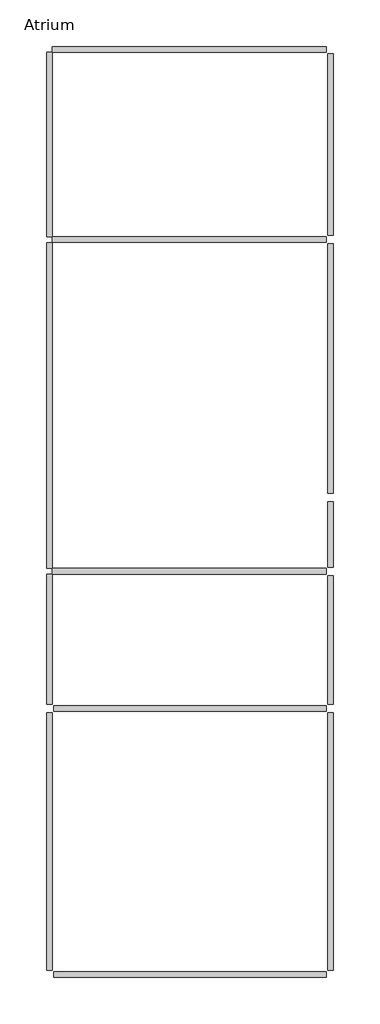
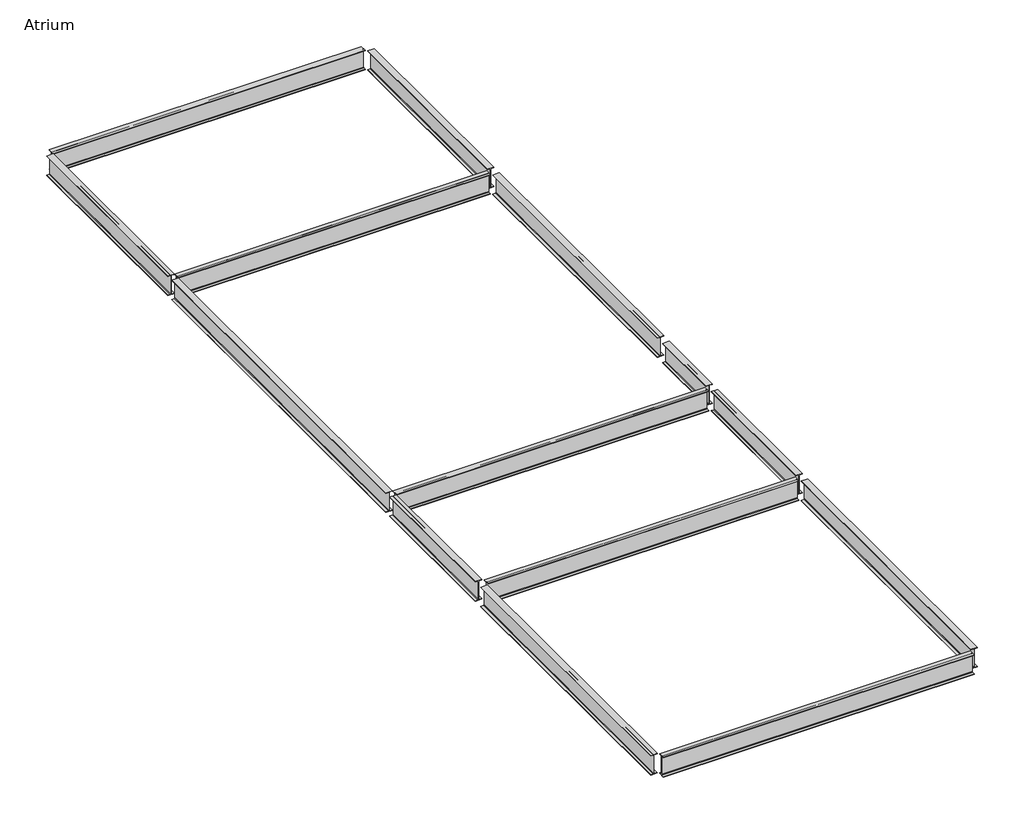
# One storey: 14 beams.
"""IFC4 building model written with IfcOpenShell, lengths in millimetres."""

from ifc_helpers import new_model, si_unit, origin, place, context, project, spatial, transform, mapped, element, save
from components import ukb533x165x66_131661b1, ukb533x165x66_edf94f72, ukb533x165x66_3e5d533c, ukb533x165x66_25363bf0, ukb533x165x66_d75856db, ukb533x165x66_11c455e5, ukb533x165x66_64810215, ukb533x165x66_0dd4db16, ukb533x165x66_a64840dc, ukb533x165x66_e4bb7340

model = new_model("IFC4")

# Units and contexts
model_context = context("Model", 3, world=origin())
ifc_project = project(units=[si_unit("LENGTHUNIT", "METRE", prefix="MILLI")], contexts=[model_context])

# Site, building, storey
site = spatial("IfcSite", under=ifc_project)
building = spatial("IfcBuilding", under=site)
storey = spatial("IfcBuildingStorey", under=building, Name="Atrium", Elevation=11000.0)

# Beams
placement = place(None, origin())
ukb533x165x66_shape = ukb533x165x66_131661b1(model_context)
element("IfcBeam", 1, ObjectType="UKB-UK Beams : UKB533x165x66", at=placement, inside=storey, context=model_context, shape_type="MappedRepresentation", body=[
    mapped(ukb533x165x66_shape, transform((25991.7060496, -6541.4552001, 10737.65), x_axis=(0.0, -1.0, 0.0), y_axis=(1.0, 0.0, 0.0), z_axis=(0.0, 0.0, 1.0))),
])
ukb533x165x66_2_shape = ukb533x165x66_edf94f72(model_context)
element("IfcBeam", 2, ObjectType="UKB-UK Beams : UKB533x165x66", at=placement, inside=storey, context=model_context, shape_type="MappedRepresentation", body=[
    mapped(ukb533x165x66_2_shape, transform((34119.7060496, -13018.4552001, 10737.65), x_axis=(0.0, -1.0, 0.0), y_axis=(1.0, 0.0, 0.0), z_axis=(0.0, 0.0, 1.0))),
])
ukb533x165x66_3_shape = ukb533x165x66_3e5d533c(model_context)
element("IfcBeam", 3, ObjectType="UKB-UK Beams : UKB533x165x66", at=placement, inside=storey, context=model_context, shape_type="MappedRepresentation", body=[
    mapped(ukb533x165x66_3_shape, transform((34119.7060496, -6541.4552001, 10737.65), x_axis=(0.0, -1.0, 0.0), y_axis=(1.0, 0.0, 0.0), z_axis=(0.0, 0.0, 1.0))),
])
ukb533x165x66_4_shape = ukb533x165x66_25363bf0(model_context)
element("IfcBeam", 4, ObjectType="UKB-UK Beams : UKB533x165x66", at=placement, inside=storey, context=model_context, shape_type="MappedRepresentation", body=[
    mapped(ukb533x165x66_4_shape, transform((30055.7060496, -22841.9552001, 10737.65), x_axis=(1.0, 0.0, 0.0), y_axis=(0.0, 1.0, 0.0), z_axis=(0.0, 0.0, 1.0))),
])
element("IfcBeam", 5, ObjectType="UKB-UK Beams : UKB533x165x66", at=placement, inside=storey, context=model_context, shape_type="MappedRepresentation", body=[
    mapped(ukb533x165x66_4_shape, transform((30055.7060496, -30537.9552001, 10737.65), x_axis=(-1.0, 0.0, 0.0), y_axis=(0.0, -1.0, 0.0), z_axis=(0.0, 0.0, 1.0))),
])
ukb533x165x66_5_shape = ukb533x165x66_d75856db(model_context)
element("IfcBeam", 6, ObjectType="UKB-UK Beams : UKB533x165x66", at=placement, inside=storey, context=model_context, shape_type="MappedRepresentation", body=[
    mapped(ukb533x165x66_5_shape, transform((34119.7060496, -17812.9552001, 10737.65), x_axis=(0.0, -1.0, 0.0), y_axis=(1.0, 0.0, 0.0), z_axis=(0.0, 0.0, 1.0))),
])
ukb533x165x66_6_shape = ukb533x165x66_11c455e5(model_context)
element("IfcBeam", 7, ObjectType="UKB-UK Beams : UKB533x165x66", at=placement, inside=storey, context=model_context, shape_type="MappedRepresentation", body=[
    mapped(ukb533x165x66_6_shape, transform((34119.7060496, -20860.9552001, 10737.65), x_axis=(0.0, -1.0, 0.0), y_axis=(1.0, 0.0, 0.0), z_axis=(0.0, 0.0, 1.0))),
])
ukb533x165x66_7_shape = ukb533x165x66_64810215(model_context)
element("IfcBeam", 8, ObjectType="UKB-UK Beams : UKB533x165x66", at=placement, inside=storey, context=model_context, shape_type="MappedRepresentation", body=[
    mapped(ukb533x165x66_7_shape, transform((34119.7060496, -26689.9552001, 10737.65), x_axis=(0.0, -1.0, 0.0), y_axis=(1.0, 0.0, 0.0), z_axis=(0.0, 0.0, 1.0))),
])
element("IfcBeam", 9, ObjectType="UKB-UK Beams : UKB533x165x66", at=placement, inside=storey, context=model_context, shape_type="MappedRepresentation", body=[
    mapped(ukb533x165x66_7_shape, transform((25991.7060496, -26689.9552001, 10737.65), x_axis=(0.0, -1.0, 0.0), y_axis=(1.0, 0.0, 0.0), z_axis=(0.0, 0.0, 1.0))),
])
ukb533x165x66_8_shape = ukb533x165x66_0dd4db16(model_context)
element("IfcBeam", 10, ObjectType="UKB-UK Beams : UKB533x165x66", at=placement, inside=storey, context=model_context, shape_type="MappedRepresentation", body=[
    mapped(ukb533x165x66_8_shape, transform((25991.7060496, -14085.4552001, 10737.65), x_axis=(0.0, -1.0, 0.0), y_axis=(1.0, 0.0, 0.0), z_axis=(0.0, 0.0, 1.0))),
])
ukb533x165x66_9_shape = ukb533x165x66_a64840dc(model_context)
element("IfcBeam", 11, ObjectType="UKB-UK Beams : UKB533x165x66", at=placement, inside=storey, context=model_context, shape_type="MappedRepresentation", body=[
    mapped(ukb533x165x66_9_shape, transform((25991.7060496, -20860.9552001, 10737.65), x_axis=(0.0, -1.0, 0.0), y_axis=(1.0, 0.0, 0.0), z_axis=(0.0, 0.0, 1.0))),
])
ukb533x165x66_10_shape = ukb533x165x66_e4bb7340(model_context)
element("IfcBeam", 12, ObjectType="UKB-UK Beams : UKB533x165x66", at=placement, inside=storey, context=model_context, shape_type="MappedRepresentation", body=[
    mapped(ukb533x165x66_10_shape, transform((30055.7060496, -3791.9552001, 10737.65), x_axis=(1.0, 0.0, 0.0), y_axis=(0.0, 1.0, 0.0), z_axis=(0.0, 0.0, 1.0))),
])
element("IfcBeam", 13, ObjectType="UKB-UK Beams : UKB533x165x66", at=placement, inside=storey, context=model_context, shape_type="MappedRepresentation", body=[
    mapped(ukb533x165x66_10_shape, transform((30055.7060496, -9290.9552001, 10737.65), x_axis=(1.0, 0.0, 0.0), y_axis=(0.0, 1.0, 0.0), z_axis=(0.0, 0.0, 1.0))),
])
element("IfcBeam", 14, ObjectType="UKB-UK Beams : UKB533x165x66", at=placement, inside=storey, context=model_context, shape_type="MappedRepresentation", body=[
    mapped(ukb533x165x66_10_shape, transform((30055.7060496, -18879.9552001, 10737.65), x_axis=(1.0, 0.0, 0.0), y_axis=(0.0, 1.0, 0.0), z_axis=(0.0, 0.0, 1.0))),
])

save(model, "model.ifc")
